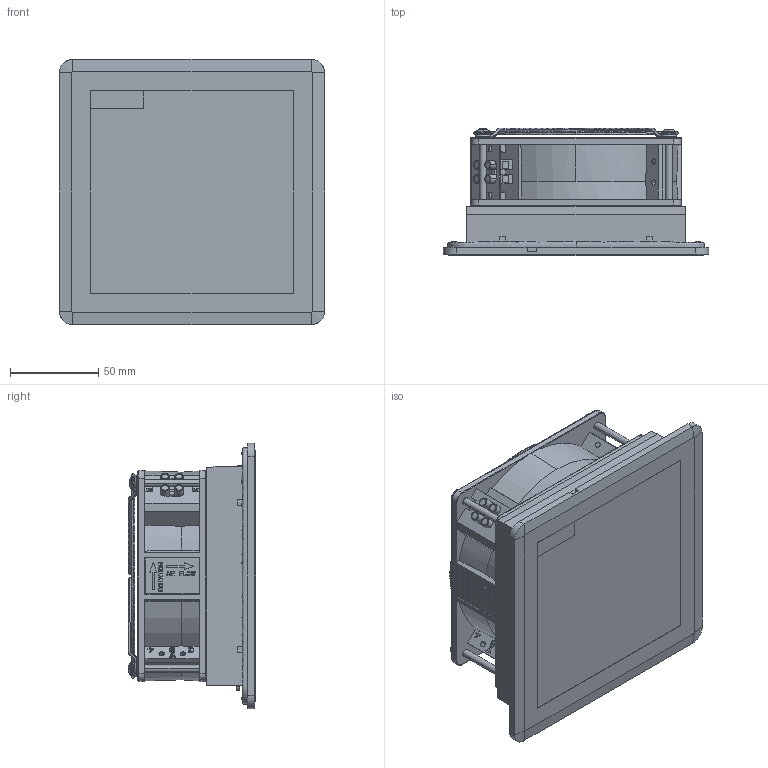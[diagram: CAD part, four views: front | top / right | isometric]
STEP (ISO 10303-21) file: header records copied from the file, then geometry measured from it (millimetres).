
FILE_DESCRIPTION(/* description */ (''),/* implementation_level */ '2;1');
FILE_NAME(/* name */ 'FP0D0B~1',/* time_stamp */ '2019-06-06T11:37:43+02:00',/* author */ (''),/* organization */ (''),/* preprocessor_version */ 'ST-DEVELOPER v14',/* originating_system */ '',/* authorisation */ '');
FILE_SCHEMA (('AUTOMOTIVE_DESIGN'));
Length unit declared in the file: millimetre
Products named in the file (1): Document
Bounding box: 149.9 x 71.91 x 149.9 mm (x, y, z)
Volume: 20809.1 mm3; surface area: 99544.1 mm2
Topology: 17 solids, 26 shells, 1116 faces, 3307 edges, 2226 vertices
Faces by surface type: plane 888, bspline 228
Entity records: 68316 total; most frequent: CARTESIAN_POINT 47556, ORIENTED_EDGE 6228, EDGE_CURVE 3315, B_SPLINE_CURVE_WITH_KNOTS 2680, VERTEX_POINT 2230, EDGE_LOOP 1211, ADVANCED_FACE 1116, FACE_OUTER_BOUND 1116
